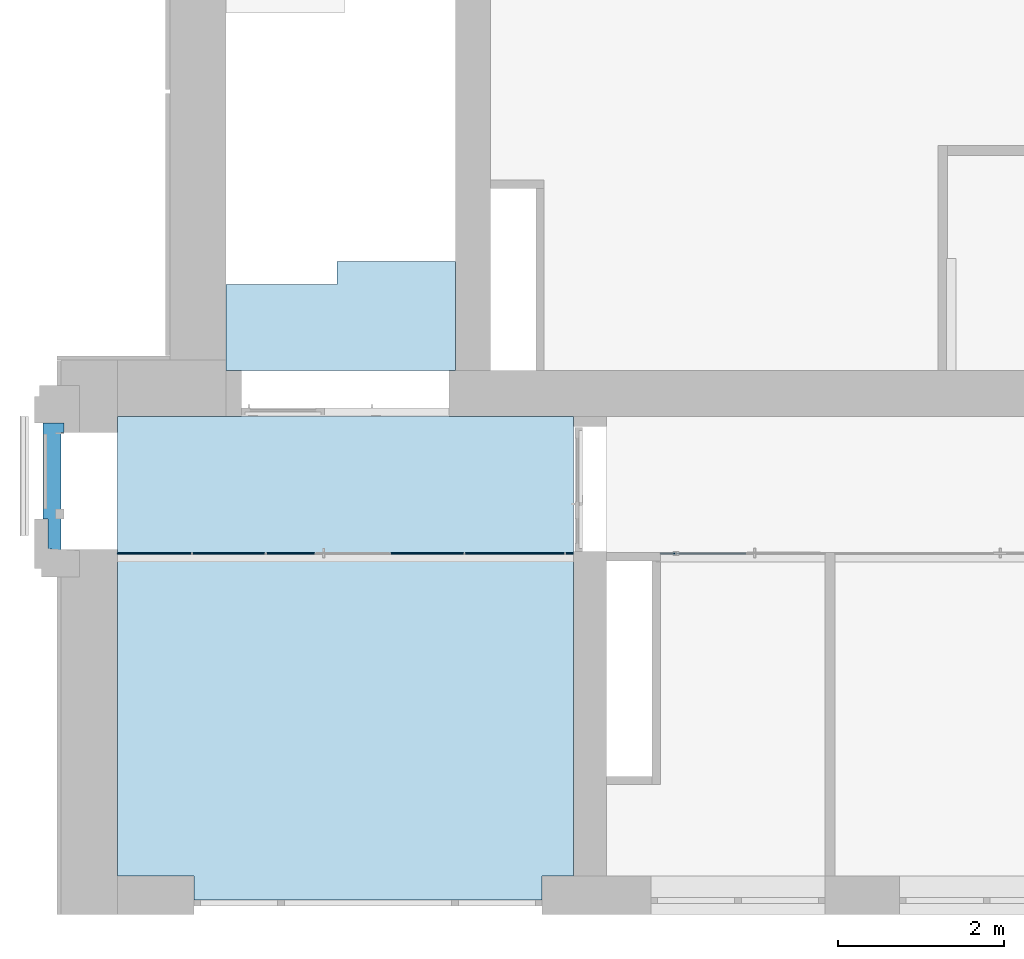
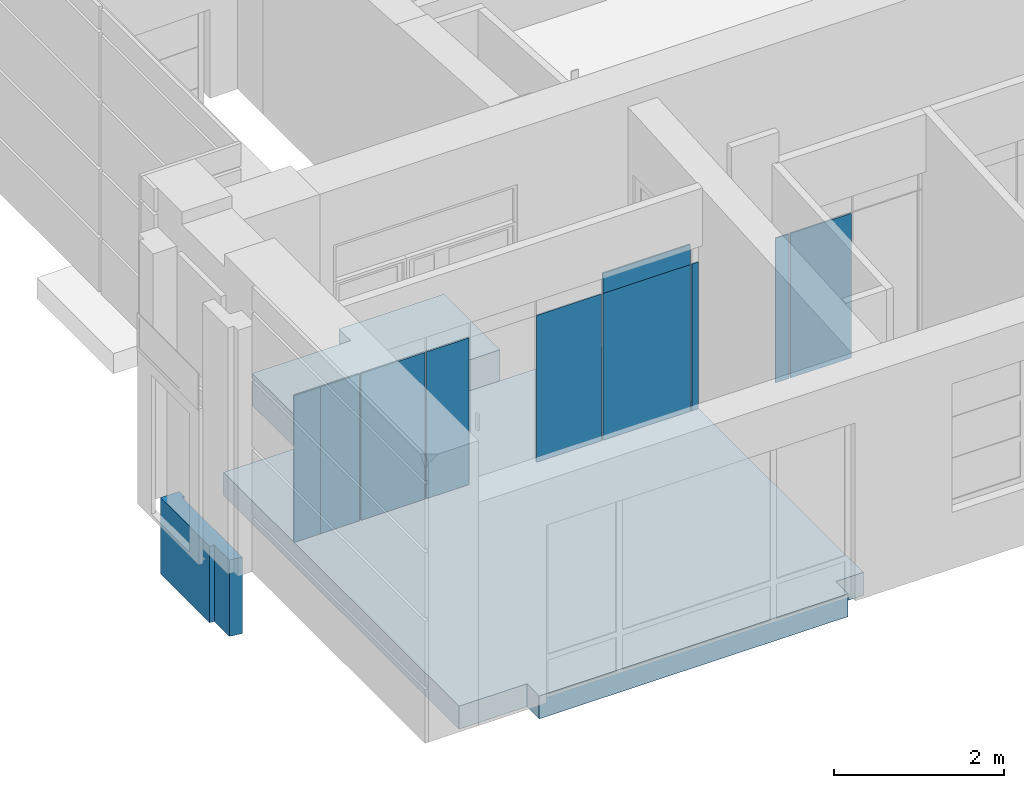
# One storey, part 11 of 46: 10 plates, 3 slabs, 2 elements without a shape of their own.
"""IFC2X3 building model written with IfcOpenShell, lengths in millimetres."""

from ifc_helpers import new_model, entity, si_unit, converted_unit, derived_unit, direction, frame, origin, origin_2d_with_axis, place, context, subcontext, project, spatial, polyline, rectangle, outline, extrude, source, transform, mapped, material, layer, layer_set, layer_usage, type_object, type_shapes, element, aggregate, save


model = new_model("IFC2X3")

# Units and contexts
model_context = context("Model", 3, precision=0.01, world=origin(), true_north=direction((6.12303176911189e-17, 1.0)))
body_context = subcontext(model_context, "Body", "Model", "MODEL_VIEW")
ifc_project = project(units=[si_unit("LENGTHUNIT", "METRE", prefix="MILLI"), si_unit("AREAUNIT", "SQUARE_METRE"), si_unit("VOLUMEUNIT", "CUBIC_METRE"), converted_unit("PLANEANGLEUNIT", "DEGREE", entity("IfcRatioMeasure", 0.0174532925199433), si_unit("PLANEANGLEUNIT", "RADIAN"), dimensions=[0, 0, 0, 0, 0, 0, 0]), si_unit("MASSUNIT", "GRAM", prefix="KILO"), derived_unit("MASSDENSITYUNIT", [(si_unit("MASSUNIT", "GRAM", prefix="KILO"), 1), (si_unit("LENGTHUNIT", "METRE"), -3)]), si_unit("TIMEUNIT", "SECOND"), si_unit("FREQUENCYUNIT", "HERTZ"), si_unit("THERMODYNAMICTEMPERATUREUNIT", "DEGREE_CELSIUS"), derived_unit("THERMALTRANSMITTANCEUNIT", [(si_unit("MASSUNIT", "GRAM", prefix="KILO"), 1), (si_unit("THERMODYNAMICTEMPERATUREUNIT", "KELVIN"), -1), (si_unit("TIMEUNIT", "SECOND"), -3)]), derived_unit("VOLUMETRICFLOWRATEUNIT", [(si_unit("LENGTHUNIT", "METRE"), 3), (si_unit("TIMEUNIT", "SECOND"), -1)]), si_unit("ELECTRICCURRENTUNIT", "AMPERE"), si_unit("ELECTRICVOLTAGEUNIT", "VOLT"), si_unit("POWERUNIT", "WATT"), si_unit("FORCEUNIT", "NEWTON", prefix="KILO"), si_unit("ILLUMINANCEUNIT", "LUX"), si_unit("LUMINOUSFLUXUNIT", "LUMEN"), si_unit("LUMINOUSINTENSITYUNIT", "CANDELA"), derived_unit("USERDEFINED", [(si_unit("MASSUNIT", "GRAM", prefix="KILO"), -1), (si_unit("LENGTHUNIT", "METRE"), -2), (si_unit("TIMEUNIT", "SECOND"), 3), (si_unit("LUMINOUSFLUXUNIT", "LUMEN"), 1)]), derived_unit("LINEARVELOCITYUNIT", [(si_unit("LENGTHUNIT", "METRE"), 1), (si_unit("TIMEUNIT", "SECOND"), -1)]), si_unit("PRESSUREUNIT", "PASCAL"), derived_unit("USERDEFINED", [(si_unit("LENGTHUNIT", "METRE"), -2), (si_unit("MASSUNIT", "GRAM", prefix="KILO"), 1), (si_unit("TIMEUNIT", "SECOND"), -2)])], contexts=[model_context])

# Site, building, storey
site_placement = place(None, frame((-151.875543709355, 2715.0, 0.0)))
site = spatial("IfcSite", under=ifc_project, at=site_placement, Name="Surface", CompositionType="ELEMENT")
building_placement = place(site_placement, origin())
building = spatial("IfcBuilding", under=site, at=building_placement, CompositionType="ELEMENT")
storey_placement = place(building_placement, frame((0.0, 0.0, 10060.0)))
storey = spatial("IfcBuildingStorey", under=building, at=storey_placement, Name="4 korrus", CompositionType="ELEMENT", Elevation=10060.0000000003)

# Curtain wall, plates
curtain_wall_type_1 = type_object("IfcCurtainWallType", Name="Curtain Wall:Klaassein KLS-07", PredefinedType="NOTDEFINED")
curtain_wall_1_placement = place(storey_placement, frame((0.0, 0.0, -10060.0)))
curtain_wall_1 = element("IfcCurtainWall", 1, at=curtain_wall_1_placement, inside=storey, type_object=curtain_wall_type_1, Name="Curtain Wall:Klaassein KLS-07", ObjectType="Curtain Wall:Klaassein KLS-07")
ifc_material_1 = material(Name="<Unnamed>")
ifc_layer_1 = layer(ifc_material_1, 20.0)
ifc_layer_set_1 = layer_set([ifc_layer_1], Name="Curtain Wall:Klaassein KLS-01")
ifc_layer_usage_1 = layer_usage(ifc_layer_set_1, "AXIS3", "POSITIVE", 0.0)
plate_type_1 = type_object("IfcPlateType", Name="Glazed", PredefinedType="CURTAIN_PANEL", material=ifc_layer_set_1)
shared_shape_1 = source(origin(), body_context, "Body", "SweptSolid", [
    extrude(rectangle(XDim=20.0, YDim=880.000000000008, at=origin_2d_with_axis()), frame((0.0, 0.0, 0.0), z_axis=(0.0, 0.0, 1.0), x_axis=(0.0, 1.0, 0.0)), (0.0, 0.0, 1.0), 2110.0),
])
type_shapes(plate_type_1, [shared_shape_1])
plate_1_placement = place(curtain_wall_1_placement, frame((4199.87554580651, 4355.04493399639, 10060.0)))
plate_1 = element("IfcPlate", 2, at=plate_1_placement, type_object=plate_type_1, material=ifc_layer_usage_1, Name="System Panel:Glazed", ObjectType="Glazed", context=body_context, shape_type="MappedRepresentation", body=[
    mapped(shared_shape_1, transform((0.0, 0.0, 0.0), scale=1.0)),
])
ifc_layer_usage_2 = layer_usage(ifc_layer_set_1, "AXIS3", "POSITIVE", 0.0)
plate_type_2 = type_object("IfcPlateType", Name="Glazed", PredefinedType="CURTAIN_PANEL", material=ifc_layer_set_1)
shared_shape_2 = source(origin(), body_context, "Body", "SweptSolid", [
    extrude(rectangle(XDim=20.0, YDim=580.0, at=origin_2d_with_axis()), frame((0.0, 0.0, 0.0), z_axis=(0.0, 0.0, 1.0), x_axis=(0.0, 1.0, 0.0)), (0.0, 0.0, 1.0), 2110.0),
])
type_shapes(plate_type_2, [shared_shape_2])
plate_2_placement = place(curtain_wall_1_placement, frame((2549.87554580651, 4355.0449339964, 10060.0)))
plate_2 = element("IfcPlate", 3, at=plate_2_placement, type_object=plate_type_2, material=ifc_layer_usage_2, Name="System Panel:Glazed", ObjectType="Glazed", context=body_context, shape_type="MappedRepresentation", body=[
    mapped(shared_shape_2, transform((0.0, 0.0, 0.0), scale=1.0)),
])
ifc_layer_usage_3 = layer_usage(ifc_layer_set_1, "AXIS3", "POSITIVE", 0.0)
plate_type_3 = type_object("IfcPlateType", Name="Glazed", PredefinedType="CURTAIN_PANEL", material=ifc_layer_set_1)
shared_shape_3 = source(origin(), body_context, "Body", "SweptSolid", [
    extrude(rectangle(XDim=20.0, YDim=357.617983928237, at=origin_2d_with_axis()), frame((0.0, 0.0, 0.0), z_axis=(0.0, 0.0, 1.0), x_axis=(0.0, 1.0, 0.0)), (0.0, 0.0, 1.0), 2110.0),
])
type_shapes(plate_type_3, [shared_shape_3])
plate_3_placement = place(curtain_wall_1_placement, frame((638.684537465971, 4355.04493399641, 10060.0)))
plate_3 = element("IfcPlate", 4, at=plate_3_placement, type_object=plate_type_3, material=ifc_layer_usage_3, Name="System Panel:Glazed", ObjectType="Glazed", context=body_context, shape_type="MappedRepresentation", body=[
    mapped(shared_shape_3, transform((0.0, 0.0, 0.0), scale=1.0)),
])
ifc_layer_usage_4 = layer_usage(ifc_layer_set_1, "AXIS3", "POSITIVE", 0.0)
plate_type_4 = type_object("IfcPlateType", Name="Glazed", PredefinedType="CURTAIN_PANEL", material=ifc_layer_set_1)
shared_shape_4 = source(origin(), body_context, "Body", "SweptSolid", [
    extrude(rectangle(XDim=20.0, YDim=532.382016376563, at=origin_2d_with_axis()), frame((0.0, 0.0, 0.0), z_axis=(0.0, 0.0, 1.0), x_axis=(0.0, 1.0, 0.0)), (0.0, 0.0, 1.0), 2110.0),
])
type_shapes(plate_type_4, [shared_shape_4])
plate_4_placement = place(curtain_wall_1_placement, frame((1083.68453761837, 4355.0449339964, 10060.0)))
plate_4 = element("IfcPlate", 5, at=plate_4_placement, type_object=plate_type_4, material=ifc_layer_usage_4, Name="System Panel:Glazed", ObjectType="Glazed", context=body_context, shape_type="MappedRepresentation", body=[
    mapped(shared_shape_4, transform((0.0, 0.0, 0.0), scale=1.0)),
])
ifc_layer_usage_5 = layer_usage(ifc_layer_set_1, "AXIS3", "POSITIVE", 0.0)
plate_type_5 = type_object("IfcPlateType", Name="Glazed", PredefinedType="CURTAIN_PANEL", material=ifc_layer_set_1)
shared_shape_5 = source(origin(), body_context, "Body", "SweptSolid", [
    extrude(rectangle(XDim=20.0, YDim=870.0, at=origin_2d_with_axis()), frame((0.0, 0.0, 0.0), z_axis=(0.0, 0.0, 1.0), x_axis=(0.0, 1.0, 0.0)), (0.0, 0.0, 1.0), 2110.0),
])
type_shapes(plate_type_5, [shared_shape_5])
plate_5_placement = place(curtain_wall_1_placement, frame((1804.87554580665, 4355.0449339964, 10060.0)))
plate_5 = element("IfcPlate", 6, at=plate_5_placement, type_object=plate_type_5, material=ifc_layer_usage_5, Name="System Panel:Glazed", ObjectType="Glazed", context=body_context, shape_type="MappedRepresentation", body=[
    mapped(shared_shape_5, transform((0.0, 0.0, 0.0), scale=1.0)),
])
ifc_layer_usage_6 = layer_usage(ifc_layer_set_1, "AXIS3", "POSITIVE", 0.0)
plate_type_6 = type_object("IfcPlateType", Name="Glazed", PredefinedType="CURTAIN_PANEL", material=ifc_layer_set_1)
shared_shape_6 = source(origin(), body_context, "Body", "SweptSolid", [
    extrude(rectangle(XDim=20.0, YDim=1190.0, at=origin_2d_with_axis()), frame((0.0, 0.0, 0.0), z_axis=(0.0, 0.0, 1.0), x_axis=(0.0, 1.0, 0.0)), (0.0, 0.0, 1.0), 2110.0),
])
type_shapes(plate_type_6, [shared_shape_6])
plate_6_placement = place(curtain_wall_1_placement, frame((5254.87554580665, 4355.04493399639, 10060.0)))
plate_6 = element("IfcPlate", 7, at=plate_6_placement, type_object=plate_type_6, material=ifc_layer_usage_6, Name="System Panel:Glazed", ObjectType="Glazed", context=body_context, shape_type="MappedRepresentation", body=[
    mapped(shared_shape_6, transform((0.0, 0.0, 0.0), scale=1.0)),
])
ifc_layer_usage_7 = layer_usage(ifc_layer_set_1, "AXIS3", "POSITIVE", 0.0)
plate_type_7 = type_object("IfcPlateType", Name="Glazed", PredefinedType="CURTAIN_PANEL", material=ifc_layer_set_1)
shared_shape_7 = source(origin(), body_context, "Body", "SweptSolid", [
    extrude(rectangle(XDim=20.0, YDim=92.6179836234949, at=origin_2d_with_axis()), frame((0.0, 0.0, 0.0), z_axis=(0.0, 0.0, 1.0), x_axis=(0.0, 1.0, 0.0)), (0.0, 0.0, 1.0), 2110.0),
])
type_shapes(plate_type_7, [shared_shape_7])
plate_7_placement = place(curtain_wall_1_placement, frame((5916.1845376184, 4355.04493399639, 10060.0)))
plate_7 = element("IfcPlate", 8, at=plate_7_placement, type_object=plate_type_7, material=ifc_layer_usage_7, Name="System Panel:Glazed", ObjectType="Glazed", context=body_context, shape_type="MappedRepresentation", body=[
    mapped(shared_shape_7, transform((0.0, 0.0, 0.0), scale=1.0)),
])
ifc_layer_usage_8 = layer_usage(ifc_layer_set_1, "AXIS3", "POSITIVE", 0.0)
plate_type_8 = type_object("IfcPlateType", Name="Glazed", PredefinedType="CURTAIN_PANEL", material=ifc_layer_set_1)
shared_shape_8 = source(origin(), body_context, "Body", "SweptSolid", [
    extrude(rectangle(XDim=20.0, YDim=1190.0, at=origin_2d_with_axis()), frame((0.0, 0.0, 0.0), z_axis=(0.0, 0.0, 1.0), x_axis=(0.0, 1.0, 0.0)), (0.0, 0.0, 1.0), 290.000000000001),
])
type_shapes(plate_type_8, [shared_shape_8])
plate_8_placement = place(curtain_wall_1_placement, frame((5254.87554580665, 4355.04493399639, 12170.0)))
plate_8 = element("IfcPlate", 9, at=plate_8_placement, type_object=plate_type_8, material=ifc_layer_usage_8, Name="System Panel:Glazed", ObjectType="Glazed", context=body_context, shape_type="MappedRepresentation", body=[
    mapped(shared_shape_8, transform((0.0, 0.0, 0.0), scale=1.0)),
])
aggregate(curtain_wall_1, [plate_3, plate_4, plate_5, plate_2, plate_1, plate_6, plate_7, plate_8])

curtain_wall_type_2 = type_object("IfcCurtainWallType", Name="Curtain Wall:Klaassein KLS-24", PredefinedType="NOTDEFINED")
curtain_wall_2_placement = place(storey_placement, frame((0.0, 0.0, -10060.0)))
curtain_wall_2 = element("IfcCurtainWall", 10, at=curtain_wall_2_placement, inside=storey, type_object=curtain_wall_type_2, Name="Curtain Wall:Klaassein KLS-24", ObjectType="Curtain Wall:Klaassein KLS-24")
ifc_layer_usage_9 = layer_usage(ifc_layer_set_1, "AXIS3", "POSITIVE", 0.0)
plate_type_9 = type_object("IfcPlateType", Name="Glazed", PredefinedType="CURTAIN_PANEL", material=ifc_layer_set_1)
shared_shape_9 = source(origin(), body_context, "Body", "SweptSolid", [
    extrude(rectangle(XDim=20.0, YDim=830.000000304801, at=origin_2d_with_axis()), frame((0.0, 0.0, 0.0), z_axis=(0.0, 0.0, 1.0), x_axis=(0.0, 1.0, 0.0)), (0.0, 0.0, 1.0), 2080.0),
])
type_shapes(plate_type_9, [shared_shape_9])
plate_9_placement = place(curtain_wall_2_placement, frame((7626.56472625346, 4355.0449339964, 10060.0), z_axis=(0.0, 0.0, 1.0), x_axis=(-1.0, 0.0, 0.0)))
plate_9 = element("IfcPlate", 11, at=plate_9_placement, type_object=plate_type_9, material=ifc_layer_usage_9, Name="System Panel:Glazed", ObjectType="Glazed", context=body_context, shape_type="MappedRepresentation", body=[
    mapped(shared_shape_9, transform((0.0, 0.0, 0.0), scale=1.0)),
])
ifc_layer_usage_10 = layer_usage(ifc_layer_set_1, "AXIS3", "POSITIVE", 0.0)
plate_type_10 = type_object("IfcPlateType", Name="Glazed", PredefinedType="CURTAIN_PANEL", material=ifc_layer_set_1)
shared_shape_10 = source(origin(), body_context, "Body", "SweptSolid", [
    extrude(rectangle(XDim=20.0, YDim=179.071196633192, at=origin_2d_with_axis()), frame((0.0, 0.0, 0.0), z_axis=(0.0, 0.0, 1.0), x_axis=(0.0, 1.0, 0.0)), (0.0, 0.0, 1.0), 2080.0),
])
type_shapes(plate_type_10, [shared_shape_10])
plate_10_placement = place(curtain_wall_2_placement, frame((7102.02912778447, 4355.04493399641, 10060.0), z_axis=(0.0, 0.0, 1.0), x_axis=(-1.0, 0.0, 0.0)))
plate_10 = element("IfcPlate", 12, at=plate_10_placement, type_object=plate_type_10, material=ifc_layer_usage_10, Name="System Panel:Glazed", ObjectType="Glazed", context=body_context, shape_type="MappedRepresentation", body=[
    mapped(shared_shape_10, transform((0.0, 0.0, 0.0), scale=1.0)),
])
aggregate(curtain_wall_2, [plate_9, plate_10])

# Slabs
ifc_material_2 = material(Name="Viimistlus")
ifc_layer_2 = layer(ifc_material_2, 20.0)
ifc_material_3 = material(Name="Betoon")
ifc_layer_3 = layer(ifc_material_3, 30.0)
ifc_material_4 = material(Name="Helisummutusvill")
ifc_layer_4 = layer(ifc_material_4, 30.0)
ifc_material_5 = material(Name="__Kergkruus")
ifc_layer_5 = layer(ifc_material_5, 30.0)
ifc_material_6 = material(Name="Betoon paneel")
ifc_layer_6 = layer(ifc_material_6, 220.0)
ifc_layer_set_2 = layer_set([ifc_layer_2, ifc_layer_3, ifc_layer_4, ifc_layer_5, ifc_layer_6], Name="Floor:VL-1_vahelagi olemasolevas hoones")
ifc_layer_usage_11 = layer_usage(ifc_layer_set_2, "AXIS3", "POSITIVE", 0.0)
slab_1_placement = place(storey_placement, origin())
element("IfcSlab", 13, at=slab_1_placement, inside=storey, material=ifc_layer_usage_11, Name="Floor:VL-1_vahelagi olemasolevas hoones", ObjectType="Floor:VL-1_vahelagi olemasolevas hoones", PredefinedType="FLOOR", context=body_context, shape_type="SweptSolid", body=[
    extrude(outline(polyline([(-1315.0238418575, -2887.643631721), (4235.0715255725, -2887.643631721), (4235.0715255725, 2614.974352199), (-1315.0238418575, 2614.974352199), (-1315.0238418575, 2236.334639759), (-1605.0238418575, 2236.334639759), (-1605.0238418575, -1963.665360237), (-1315.0238418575, -1963.665360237), (-1315.0238418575, -2887.643631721)])), frame((3347.519177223, 1774.9284744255, 0.0), z_axis=(0.0, 0.0, -1.0), x_axis=(0.0, 1.0, 0.0)), (0.0, 0.0, 1.0), 330.0),
])
ifc_material_7 = material(Name="GENEERILINE - KONSTRUKTRIOON")
ifc_layer_7 = layer(ifc_material_7, 1099.56796646)
ifc_layer_set_3 = layer_set([ifc_layer_7], Name="Floor:VAHELAGI - 005")
ifc_layer_usage_12 = layer_usage(ifc_layer_set_3, "AXIS3", "POSITIVE", 0.0)
slab_2_placement = place(storey_placement, origin())
element("IfcSlab", 14, at=slab_2_placement, inside=storey, material=ifc_layer_usage_12, Name="Floor:VAHELAGI - 005", ObjectType="Floor:VAHELAGI - 005", PredefinedType="FLOOR", context=body_context, shape_type="SweptSolid", body=[
    extrude(outline(polyline([(-457.297002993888, -135.838805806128), (701.428302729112, -135.838805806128), (701.428302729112, 122.743927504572), (583.111652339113, 122.743927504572), (583.111652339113, 86.9201227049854), (-838.702292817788, 86.9201227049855), (-815.783611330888, -73.8252444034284), (-457.297002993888, -73.8252444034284), (-457.297002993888, -135.838805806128)])), frame((-306.044577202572, 5228.68262866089, 0.0), z_axis=(0.0, 0.0, -1.0), x_axis=(0.0, 1.0, 0.0)), (0.0, 0.0, 1.0), 1099.56796646),
])
ifc_material_8 = material(Name="Betoonplaat")
ifc_layer_8 = layer(ifc_material_8, 460.0)
ifc_layer_set_4 = layer_set([ifc_layer_8], Name="Floor:Trepimade7")
ifc_layer_usage_13 = layer_usage(ifc_layer_set_4, "AXIS3", "POSITIVE", 0.0)
slab_3_placement = place(storey_placement, origin())
element("IfcSlab", 15, at=slab_3_placement, inside=storey, material=ifc_layer_usage_13, Name="Floor:Trepimade7", ObjectType="Floor:Trepimade7", PredefinedType="FLOOR", context=body_context, shape_type="SweptSolid", body=[
    extrude(outline(polyline([(-786.655251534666, -1370.29097644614), (253.678185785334, -1370.29097644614), (253.678185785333, -30.2909764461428), (532.977065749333, -30.2909764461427), (532.977065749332, 1400.58195289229), (-786.655251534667, 1400.58195289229), (-786.655251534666, -1370.29097644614)])), frame((3140.29097644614, 7346.65525153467, 0.0), z_axis=(0.0, 0.0, -1.0), x_axis=(0.0, 1.0, 0.0)), (0.0, 0.0, 1.0), 460.0),
])

save(model, "model.ifc")
